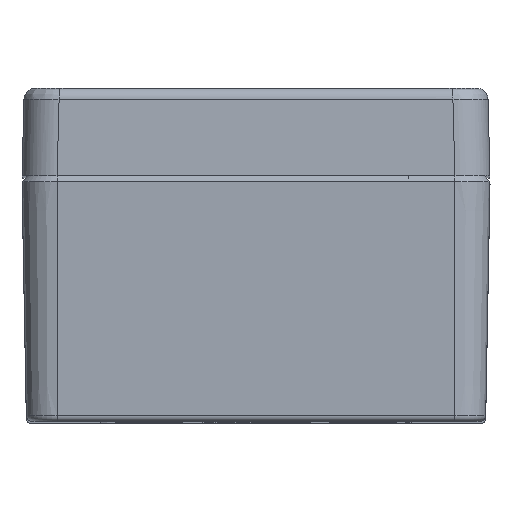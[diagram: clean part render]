
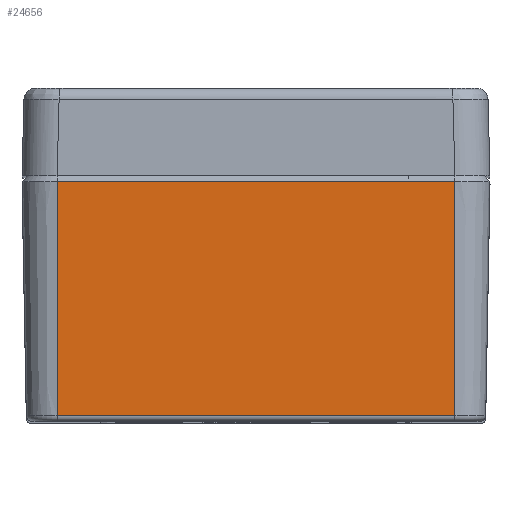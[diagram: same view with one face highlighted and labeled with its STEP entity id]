
A CAD part, top view. The second image highlights one B-rep face of the part: STEP entity #24656.
In plain terms, the highlighted planar face has unit normal (0, -0.018, 1).
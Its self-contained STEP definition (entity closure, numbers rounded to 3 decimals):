
#259 = LINE ( 'NONE', #11046, #35286 ) ;
#1300 = ORIENTED_EDGE ( 'NONE', *, *, #2280, .F. ) ;
#1472 = ORIENTED_EDGE ( 'NONE', *, *, #9884, .F. ) ;
#2280 = EDGE_CURVE ( 'NONE', #30553, #29248, #30142, .T. ) ;
#2570 = CARTESIAN_POINT ( 'NONE',  ( 34., -20.018, 124.268 ) ) ;
#4422 = CARTESIAN_POINT ( 'NONE',  ( 34., 20., 125. ) ) ;
#6867 = CARTESIAN_POINT ( 'NONE',  ( -42.851, 20., 125. ) ) ;
#9478 = CARTESIAN_POINT ( 'NONE',  ( -42.851, 20., 125. ) ) ;
#9544 = CARTESIAN_POINT ( 'NONE',  ( -34., -20.018, 124.268 ) ) ;
#9884 = EDGE_CURVE ( 'NONE', #34201, #10249, #43909, .T. ) ;
#10249 = VERTEX_POINT ( 'NONE', #42245 ) ;
#11046 = CARTESIAN_POINT ( 'NONE',  ( 34.374, -20.018, 124.268 ) ) ;
#11576 = ORIENTED_EDGE ( 'NONE', *, *, #40753, .F. ) ;
#14408 = ORIENTED_EDGE ( 'NONE', *, *, #41449, .T. ) ;
#17058 = CARTESIAN_POINT ( 'NONE',  ( -34., 20., 125. ) ) ;
#17327 = AXIS2_PLACEMENT_3D ( 'NONE', #9478, #42258, #23137 ) ;
#21144 = CARTESIAN_POINT ( 'NONE',  ( 34., 20., 125. ) ) ;
#23137 = DIRECTION ( 'NONE',  ( 0., -1., -0.018 ) ) ;
#24656 = ADVANCED_FACE ( 'NONE', ( #27840 ), #27372, .T. ) ;
#24744 = LINE ( 'NONE', #6867, #27018 ) ;
#25724 = CARTESIAN_POINT ( 'NONE',  ( 34., -20.018, 124.268 ) ) ;
#27018 = VECTOR ( 'NONE', #41988, 1000. ) ;
#27372 = PLANE ( 'NONE',  #17327 ) ;
#27840 = FACE_OUTER_BOUND ( 'NONE', #43160, .T. ) ;
#29248 = VERTEX_POINT ( 'NONE', #25724 ) ;
#30142 = B_SPLINE_CURVE_WITH_KNOTS ( 'NONE', 1,
 ( #21144, #2570 ),
 .UNSPECIFIED., .F., .F.,
 ( 2, 2 ),
 ( 0., 1. ),
 .UNSPECIFIED. ) ;
#30553 = VERTEX_POINT ( 'NONE', #4422 ) ;
#32547 = CARTESIAN_POINT ( 'NONE',  ( -34., -20.018, 124.268 ) ) ;
#34201 = VERTEX_POINT ( 'NONE', #32547 ) ;
#35286 = VECTOR ( 'NONE', #43153, 1000. ) ;
#40753 = EDGE_CURVE ( 'NONE', #29248, #34201, #259, .T. ) ;
#41449 = EDGE_CURVE ( 'NONE', #30553, #10249, #24744, .T. ) ;
#41988 = DIRECTION ( 'NONE',  ( -1., 0., 0. ) ) ;
#42245 = CARTESIAN_POINT ( 'NONE',  ( -34., 20., 125. ) ) ;
#42258 = DIRECTION ( 'NONE',  ( 0., -0.018, 1. ) ) ;
#43153 = DIRECTION ( 'NONE',  ( -1., 0., 0. ) ) ;
#43160 = EDGE_LOOP ( 'NONE', ( #1300, #14408, #1472, #11576 ) ) ;
#43909 = B_SPLINE_CURVE_WITH_KNOTS ( 'NONE', 1,
 ( #9544, #17058 ),
 .UNSPECIFIED., .F., .F.,
 ( 2, 2 ),
 ( 0., 1. ),
 .UNSPECIFIED. ) ;
